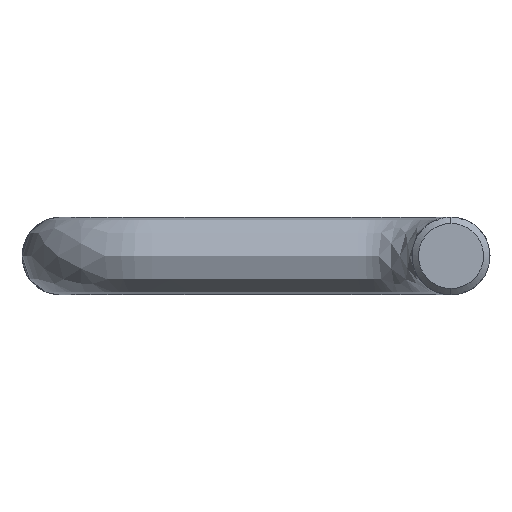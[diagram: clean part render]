
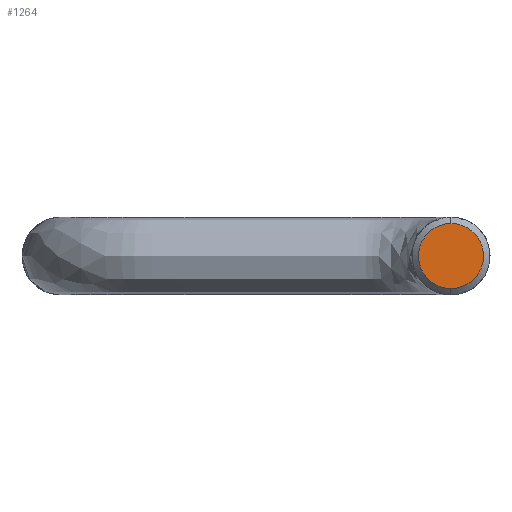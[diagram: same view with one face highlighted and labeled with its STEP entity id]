
A CAD part, front view. The second image highlights one B-rep face of the part: STEP entity #1264.
In plain terms, the highlighted planar face has unit normal (0, -1, 0).
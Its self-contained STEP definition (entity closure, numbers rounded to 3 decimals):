
#31 = CARTESIAN_POINT ( 'NONE',  ( -1.298, 0., 4.84 ) ) ;
#35 = CARTESIAN_POINT ( 'NONE',  ( 0.663, 0., 5. ) ) ;
#47 = CARTESIAN_POINT ( 'NONE',  ( -4.745, 0., -1.61 ) ) ;
#94 = CARTESIAN_POINT ( 'NONE',  ( -0.818, 0., 4.935 ) ) ;
#110 = CARTESIAN_POINT ( 'NONE',  ( -3.769, 0., -3.302 ) ) ;
#159 = AXIS2_PLACEMENT_3D ( 'NONE', #3048, #1800, #2306 ) ;
#251 = CARTESIAN_POINT ( 'NONE',  ( 0.326, 0., -5. ) ) ;
#267 = CARTESIAN_POINT ( 'NONE',  ( 1.299, 0., -4.831 ) ) ;
#315 = CARTESIAN_POINT ( 'NONE',  ( -0.002, 0., -5. ) ) ;
#319 = CARTESIAN_POINT ( 'NONE',  ( 1.3, 0., 4.873 ) ) ;
#349 = CARTESIAN_POINT ( 'NONE',  ( -5., 0., 0.162 ) ) ;
#519 = CARTESIAN_POINT ( 'NONE',  ( 1.612, 0., -4.736 ) ) ;
#568 = CARTESIAN_POINT ( 'NONE',  ( 0., 0., 5. ) ) ;
#590 = B_SPLINE_CURVE_WITH_KNOTS ( 'NONE', 3,
 ( #1298, #2340, #2324, #851, #94, #31, #2076, #1618, #2111, #1872, #1117, #2589, #2892, #2144, #1838, #3169, #3102, #1820, #599, #2859, #349, #1569, #1586, #2606, #47, #2094, #1132, #1905, #1634, #2672, #110, #2978, #883, #2160, #2925, #2176, #1449, #681, #3250, #3201, #1197, #2995 ),
 .UNSPECIFIED., .F., .F.,
 ( 4, 2, 2, 2, 2, 2, 2, 2, 2, 2, 2, 2, 2, 2, 2, 2, 2, 2, 2, 2, 4 ),
 ( 0., 0.031, 0.062, 0.125, 0.25, 0.312, 0.344, 0.375, 0.437, 0.469, 0.5, 0.563, 0.625, 0.656, 0.688, 0.75, 0.781, 0.813, 0.875, 0.938, 1. ),
 .UNSPECIFIED. ) ;
#599 = CARTESIAN_POINT ( 'NONE',  ( -4.96, 0., 0.654 ) ) ;
#681 = CARTESIAN_POINT ( 'NONE',  ( -1.613, 0., -4.744 ) ) ;
#756 = CARTESIAN_POINT ( 'NONE',  ( 1.764, 0., -4.681 ) ) ;
#772 = CARTESIAN_POINT ( 'NONE',  ( 3.065, 0., 4.005 ) ) ;
#782 = FACE_OUTER_BOUND ( 'NONE', #3310, .T. ) ;
#789 = CARTESIAN_POINT ( 'NONE',  ( 1.14, 0., -4.871 ) ) ;
#805 = CARTESIAN_POINT ( 'NONE',  ( 5., 0., 0.666 ) ) ;
#851 = CARTESIAN_POINT ( 'NONE',  ( -0.654, 0., 4.96 ) ) ;
#883 = CARTESIAN_POINT ( 'NONE',  ( -3.3, 0., -3.76 ) ) ;
#983 = PLANE ( 'NONE',  #159 ) ;
#1053 = CARTESIAN_POINT ( 'NONE',  ( 0.655, 0., -4.967 ) ) ;
#1117 = CARTESIAN_POINT ( 'NONE',  ( -3.975, 0., 3.051 ) ) ;
#1132 = CARTESIAN_POINT ( 'NONE',  ( -4.487, 0., -2.212 ) ) ;
#1197 = CARTESIAN_POINT ( 'NONE',  ( -0.33, 0., -5. ) ) ;
#1264 = ADVANCED_FACE ( 'NONE', ( #782 ), #983, .F. ) ;
#1271 = CARTESIAN_POINT ( 'NONE',  ( 4.005, 0., -3.066 ) ) ;
#1298 = CARTESIAN_POINT ( 'NONE',  ( 0., 0., 5. ) ) ;
#1449 = CARTESIAN_POINT ( 'NONE',  ( -2.219, 0., -4.492 ) ) ;
#1528 = VERTEX_POINT ( 'NONE', #315 ) ;
#1569 = CARTESIAN_POINT ( 'NONE',  ( -5., 0., -0.328 ) ) ;
#1586 = CARTESIAN_POINT ( 'NONE',  ( -4.968, 0., -0.653 ) ) ;
#1618 = CARTESIAN_POINT ( 'NONE',  ( -2.519, 0., 4.369 ) ) ;
#1634 = CARTESIAN_POINT ( 'NONE',  ( -4.248, 0., -2.642 ) ) ;
#1773 = EDGE_CURVE ( 'NONE', #2387, #1528, #590, .T. ) ;
#1791 = CARTESIAN_POINT ( 'NONE',  ( 2.524, 0., 4.367 ) ) ;
#1800 = DIRECTION ( 'NONE',  ( 0., 1., 0. ) ) ;
#1807 = CARTESIAN_POINT ( 'NONE',  ( 4.874, 0., -1.299 ) ) ;
#1820 = CARTESIAN_POINT ( 'NONE',  ( -4.936, 0., 0.816 ) ) ;
#1838 = CARTESIAN_POINT ( 'NONE',  ( -4.558, 0., 2.063 ) ) ;
#1872 = CARTESIAN_POINT ( 'NONE',  ( -3.767, 0., 3.304 ) ) ;
#1905 = CARTESIAN_POINT ( 'NONE',  ( -4.333, 0., -2.501 ) ) ;
#2017 = CARTESIAN_POINT ( 'NONE',  ( 0., 0., 5. ) ) ;
#2066 = CARTESIAN_POINT ( 'NONE',  ( 4.364, 0., 2.529 ) ) ;
#2076 = CARTESIAN_POINT ( 'NONE',  ( -1.61, 0., 4.745 ) ) ;
#2080 = CARTESIAN_POINT ( 'NONE',  ( 4.367, 0., -2.524 ) ) ;
#2094 = CARTESIAN_POINT ( 'NONE',  ( -4.557, 0., -2.064 ) ) ;
#2110 = ORIENTED_EDGE ( 'NONE', *, *, #1773, .T. ) ;
#2111 = CARTESIAN_POINT ( 'NONE',  ( -3.073, 0., 3.998 ) ) ;
#2144 = CARTESIAN_POINT ( 'NONE',  ( -4.487, 0., 2.213 ) ) ;
#2160 = CARTESIAN_POINT ( 'NONE',  ( -3.047, 0., -3.968 ) ) ;
#2176 = CARTESIAN_POINT ( 'NONE',  ( -2.506, 0., -4.339 ) ) ;
#2306 = DIRECTION ( 'NONE',  ( 1., 0., 0. ) ) ;
#2313 = CARTESIAN_POINT ( 'NONE',  ( 4.872, 0., 1.306 ) ) ;
#2324 = CARTESIAN_POINT ( 'NONE',  ( -0.328, 0., 4.992 ) ) ;
#2340 = CARTESIAN_POINT ( 'NONE',  ( -0.164, 0., 5. ) ) ;
#2360 = CARTESIAN_POINT ( 'NONE',  ( 5., 0., -0.659 ) ) ;
#2387 = VERTEX_POINT ( 'NONE', #2017 ) ;
#2589 = CARTESIAN_POINT ( 'NONE',  ( -4.248, 0., 2.642 ) ) ;
#2606 = CARTESIAN_POINT ( 'NONE',  ( -4.84, 0., -1.296 ) ) ;
#2614 = EDGE_CURVE ( 'NONE', #1528, #2387, #2946, .T. ) ;
#2672 = CARTESIAN_POINT ( 'NONE',  ( -3.976, 0., -3.05 ) ) ;
#2732 = CARTESIAN_POINT ( 'NONE',  ( -0.002, 0., -5. ) ) ;
#2798 = CARTESIAN_POINT ( 'NONE',  ( 2.528, 0., -4.364 ) ) ;
#2859 = CARTESIAN_POINT ( 'NONE',  ( -4.992, 0., 0.328 ) ) ;
#2875 = ORIENTED_EDGE ( 'NONE', *, *, #2614, .T. ) ;
#2892 = CARTESIAN_POINT ( 'NONE',  ( -4.333, 0., 2.501 ) ) ;
#2925 = CARTESIAN_POINT ( 'NONE',  ( -2.913, 0., -4.067 ) ) ;
#2946 = B_SPLINE_CURVE_WITH_KNOTS ( 'NONE', 3,
 ( #2732, #251, #1053, #789, #267, #519, #756, #2798, #3075, #1271, #2080, #1807, #2360, #805, #2313, #2066, #3106, #772, #1791, #319, #35, #568 ),
 .UNSPECIFIED., .F., .F.,
 ( 4, 2, 2, 2, 2, 2, 2, 2, 2, 2, 4 ),
 ( 0., 0.062, 0.094, 0.125, 0.25, 0.375, 0.5, 0.625, 0.75, 0.875, 1. ),
 .UNSPECIFIED. ) ;
#2978 = CARTESIAN_POINT ( 'NONE',  ( -3.421, 0., -3.65 ) ) ;
#2995 = CARTESIAN_POINT ( 'NONE',  ( -0.002, 0., -5. ) ) ;
#3048 = CARTESIAN_POINT ( 'NONE',  ( 0., 0., 0. ) ) ;
#3075 = CARTESIAN_POINT ( 'NONE',  ( 3.069, 0., -4.002 ) ) ;
#3102 = CARTESIAN_POINT ( 'NONE',  ( -4.839, 0., 1.299 ) ) ;
#3106 = CARTESIAN_POINT ( 'NONE',  ( 4.001, 0., 3.07 ) ) ;
#3169 = CARTESIAN_POINT ( 'NONE',  ( -4.745, 0., 1.61 ) ) ;
#3201 = CARTESIAN_POINT ( 'NONE',  ( -0.655, 0., -4.968 ) ) ;
#3250 = CARTESIAN_POINT ( 'NONE',  ( -1.298, 0., -4.84 ) ) ;
#3310 = EDGE_LOOP ( 'NONE', ( #2110, #2875 ) ) ;
